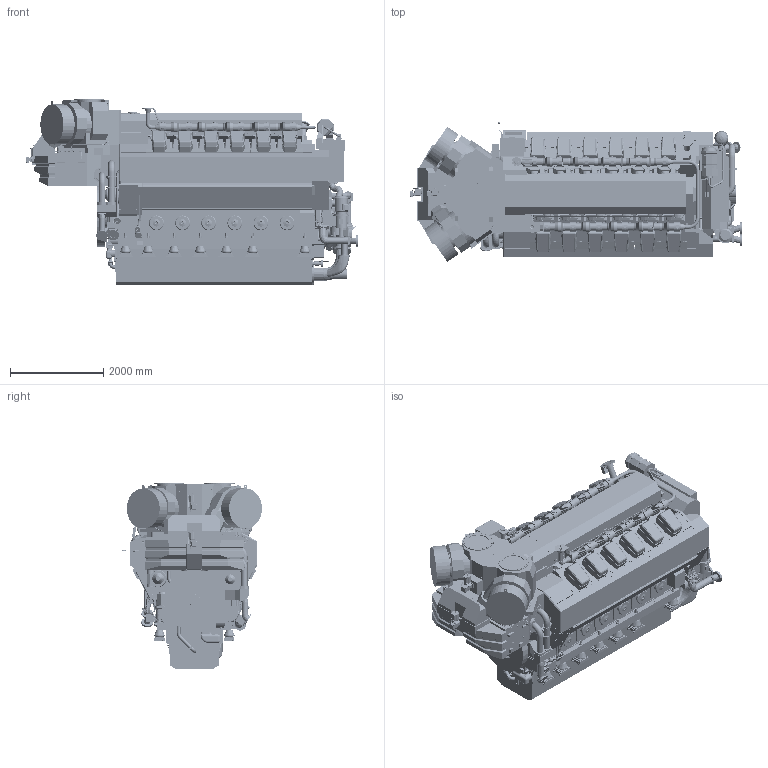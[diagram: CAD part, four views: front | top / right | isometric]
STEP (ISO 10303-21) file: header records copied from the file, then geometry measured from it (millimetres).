
FILE_DESCRIPTION(/* description */ (''),/* implementation_level */ '2;1');
FILE_NAME(/* name */ 'DAAF379614_A.stp',/* time_stamp */ '2021-12-13T11:36:12+02:00',/* author */ (''),/* organization */ (''),/* preprocessor_version */ 'ST-DEVELOPER v16.7',/* originating_system */ 'SIEMENS PLM Software NX 1915',/* authorisation */ '');
FILE_SCHEMA (('AUTOMOTIVE_DESIGN { 1 0 10303 214 3 1 1 1 }'));
Products named in the file (84): 001620194_-; 001240134_-; 001240134_A; PAAF523057_-; PAAF702810_-; PABA274494_-; PABA173946_-; PAAF078607_-; PAAF243367_-; PAAF093851_-; PABA001563_-; PABA002426_-; PABA002081_-; PABA068010_-; PABA068052_-; PABA001772_-; PABA068023_-; PABA052478_-; PABA065852_-; PABA052425_-; PABA066964_-; PAAF245312_-; PAAF064329_-; PAAF064590_-; PAAF195815_-; PAAF063784_-; PAAF078635_-; PAAF243353_-; PAAF245462_-; PAAF785461_-; PAAF077590_-; PAAF078609_-; PAAF093826_-; PAAF924065_-; PAAF093449_-; PAAF078708_-; PAAF078536_-; PAAF259784_-; PAAF087147_-; PAAF087128_-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
Assembly tree (172 placements, depth 4):
  PABA276612_-
    PABA068063_-
      PAAF243684_-
      PAAF166694_-
      PAAF078077_-
      PAAF087123_-
      PAAF245468_-
      PAAF074394_-
      PAAF852803_-
      PAAF238216_-
      PAAF990034_-
      PAAF074412_-
      PAAF245056_-
      PAAF221967_-
      PAAF991059_-
      PAAF087117_-
      PAAF565855_-
      PAAF078239_-
      PAAF313561_-
      PAAF295070_-
      PAAF087113_-
      PAAF924067_-
      PAAF247464_-
      PABA034962_-
      PAAF063634_-
      PAAF304653_-
      PAAF078522_-
      PAAF087083_-
      PAAF243370_-
      PAAF078535_-
      PABA036926_-
      PAAF090571_-  x2
      PAAF221638_-
      PAAF313559_-
      PAAF783146_-
      PAAF783084_-
      PAAF308706_-
      PABA039759_-
      PABA039601_-
      PAAF308705_-
      PAAF087128_-
      PAAF087147_-
      PAAF259784_-
      PAAF078536_-
      PAAF078708_-
      PAAF093449_-
      PAAF924065_-
      PAAF093826_-
      PAAF078609_-
      PAAF077590_-
      PAAF785461_-
      PAAF245462_-
      PAAF243353_-  x2
      PAAF078635_-
      PAAF063784_-
      PAAF195815_-
      PAAF064590_-
      PAAF064329_-
      PAAF245312_-  x2
      PABA066964_-
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Bounding box: 7119.67 x 2999.88 x 3995.51 mm (x, y, z)
Volume: 27353514794.2 mm3; surface area: 350711219 mm2
Topology: 491 solids, 637 shells, 21007 faces, 51435 edges, 32866 vertices
Faces by surface type: plane 11168, cylinder 5747, bspline 2603, torus 778, cone 549, extrusion 88, sphere 51, revolution 23
Full cylindrical faces by diameter (mm): 0.005 x8, 0.107 x1, 3.3 x12, 6 x19, 6.2 x112, 6.5 x12, 8 x48, 8.5 x1, 8.993 x3, 9 x42, 9.5 x1, 9.685 x1, 10 x33, 11 x37, 11.908 x1, 11.995 x1, 12 x74, 12.4 x1, 13.2 x4, 13.5 x9, 14 x92, 14.596 x1, 14.917 x1, 15 x42, 15.5 x4, 15.7 x4, 16 x54, 16.4 x2, 16.5 x3, 16.658 x1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
Entity records: 649789 total; most frequent: CARTESIAN_POINT 232524, ORIENTED_EDGE 83616, DIRECTION 81997, EDGE_CURVE 41808, AXIS2_PLACEMENT_3D 28513, VERTEX_POINT 27705, VECTOR 24950, LINE 24862
